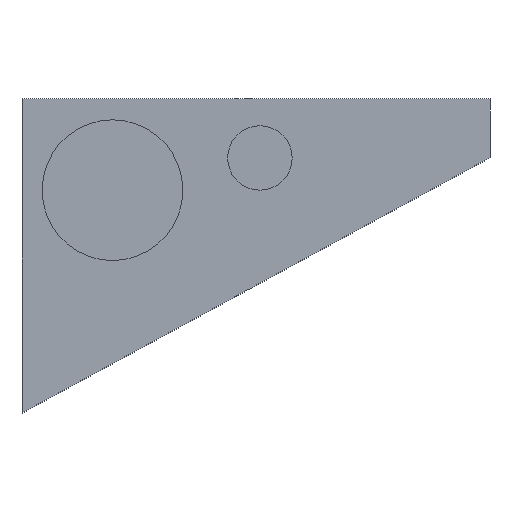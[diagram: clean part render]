
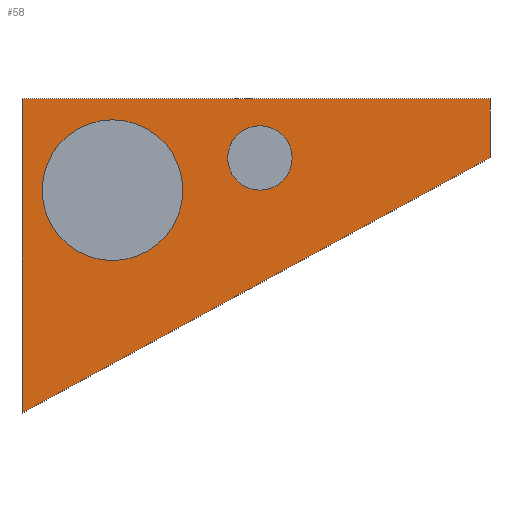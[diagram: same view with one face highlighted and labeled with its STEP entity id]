
A CAD part, top view. The second image highlights one B-rep face of the part: STEP entity #58.
In plain terms, the highlighted planar face has unit normal (0, 0, 1).
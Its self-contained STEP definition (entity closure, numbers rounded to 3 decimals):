
#58=ADVANCED_FACE('',(#148,#150,#152),#154,.T.);
#148=FACE_BOUND('',#149,.T.);
#149=EDGE_LOOP('',(#226,#227,#228,#229));
#150=FACE_BOUND('',#151,.T.);
#151=EDGE_LOOP('',(#230));
#152=FACE_BOUND('',#153,.T.);
#153=EDGE_LOOP('',(#231));
#154=PLANE('',#155);
#155=AXIS2_PLACEMENT_3D('',#156,#157,#158);
#156=CARTESIAN_POINT('',(0.,0.,0.8));
#157=DIRECTION('',(0.,0.,1.));
#158=DIRECTION('',(1.,0.,0.));
#226=ORIENTED_EDGE('',*,*,#258,.T.);
#227=ORIENTED_EDGE('',*,*,#259,.T.);
#228=ORIENTED_EDGE('',*,*,#260,.T.);
#229=ORIENTED_EDGE('',*,*,#261,.T.);
#230=ORIENTED_EDGE('',*,*,#262,.T.);
#231=ORIENTED_EDGE('',*,*,#263,.T.);
#258=EDGE_CURVE('',#274,#275,#276,.F.);
#259=EDGE_CURVE('',#275,#277,#278,.T.);
#260=EDGE_CURVE('',#277,#279,#280,.T.);
#261=EDGE_CURVE('',#279,#274,#281,.F.);
#262=EDGE_CURVE('',#282,#282,#283,.F.);
#263=EDGE_CURVE('',#284,#284,#285,.F.);
#274=VERTEX_POINT('',#302);
#275=VERTEX_POINT('',#303);
#276=LINE('',#304,#305);
#277=VERTEX_POINT('',#307);
#278=LINE('',#308,#309);
#279=VERTEX_POINT('',#311);
#280=LINE('',#312,#313);
#281=LINE('',#315,#316);
#282=VERTEX_POINT('',#318);
#283=CIRCLE('',#319,20.3);
#284=VERTEX_POINT('',#323);
#285=CIRCLE('',#324,9.3);
#302=CARTESIAN_POINT('',(-135.023,-2.,0.8));
#303=CARTESIAN_POINT('',(-135.023,-92.7,0.8));
#304=CARTESIAN_POINT('',(-135.023,-92.7,0.8));
#305=VECTOR('',#306,1.);
#306=DIRECTION('',(0.,1.,0.));
#307=CARTESIAN_POINT('',(0.,-19.,0.8));
#308=CARTESIAN_POINT('',(-135.023,-92.7,0.8));
#309=VECTOR('',#310,1.);
#310=DIRECTION('',(0.878,0.479,0.));
#311=CARTESIAN_POINT('',(0.,-2.,0.8));
#312=CARTESIAN_POINT('',(0.,-19.,0.8));
#313=VECTOR('',#314,1.);
#314=DIRECTION('',(0.,1.,0.));
#315=CARTESIAN_POINT('',(-135.023,-2.,0.8));
#316=VECTOR('',#317,1.);
#317=DIRECTION('',(1.,0.,0.));
#318=CARTESIAN_POINT('',(-88.607,-28.361,0.8));
#319=AXIS2_PLACEMENT_3D('',#320,#321,#322);
#320=CARTESIAN_POINT('',(-108.907,-28.361,0.8));
#321=DIRECTION('',(0.,0.,1.));
#322=DIRECTION('',(1.,0.,0.));
#323=CARTESIAN_POINT('',(-57.083,-19.061,0.8));
#324=AXIS2_PLACEMENT_3D('',#325,#326,#327);
#325=CARTESIAN_POINT('',(-66.383,-19.061,0.8));
#326=DIRECTION('',(0.,0.,1.));
#327=DIRECTION('',(1.,0.,0.));
